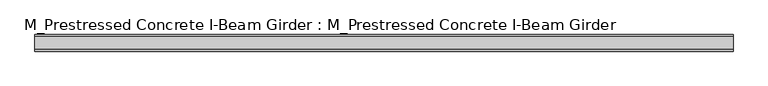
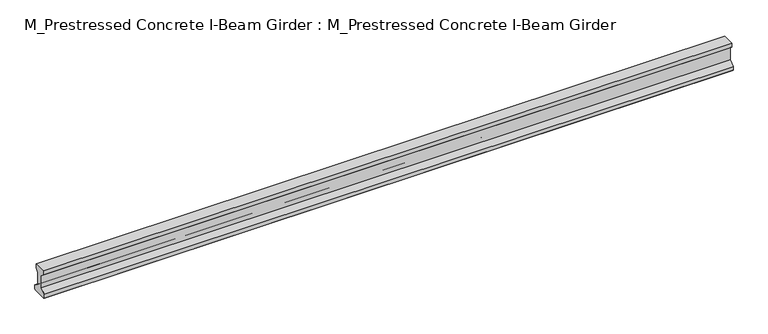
"""IFC4 building model written with IfcOpenShell, lengths in millimetres: beam geometry, M_Prestressed Concrete I-Beam Girder : M_Prestressed Concrete I-Beam Girder."""

from ifc_helpers import new_model, si_unit, frame, origin, place, context, project, spatial, polyline, outline, extrude, source, transform, mapped, element, save


def m_prestressed_concrete_i_beam_girder_m_prestressed_concrete_408f9f43(model_context):
    return source(origin(), model_context, "Body", "SweptSolid", [
        extrude(outline(polyline([(-150.0, -100.0), (-150.0, 0.0), (150.0, 0.0), (150.0, -100.0), (75.0, -170.0), (75.0, -480.0), (200.0, -580.0), (200.0, -675.0), (175.0, -700.0), (-175.0, -700.0), (-200.0, -675.0), (-200.0, -580.0), (-75.0, -480.0), (-75.0, -170.0), (-150.0, -100.0)])), frame((-8402.0000414, 0.0, 0.0), z_axis=(1.0, 0.0, 0.0), x_axis=(0.0, 1.0, 0.0)), (0.0, 0.0, 1.0), 16804.0000829),
    ])


if __name__ == "__main__":
    model = new_model("IFC4")
    model_context = context("Model", 3, world=origin())
    ifc_project = project(units=[si_unit("LENGTHUNIT", "METRE", prefix="MILLI")], contexts=[model_context])
    site = spatial("IfcSite", under=ifc_project)
    building = spatial("IfcBuilding", under=site)
    placement = place(None, origin())
    m_prestressed_concrete_i_beam_girder_m_prestressed_concrete_shape = m_prestressed_concrete_i_beam_girder_m_prestressed_concrete_408f9f43(model_context)
    element("IfcBeam", 1, ObjectType="M_Prestressed Concrete I-Beam Girder : M_Prestressed Concrete I-Beam Girder", at=placement, inside=building, context=model_context, shape_type="MappedRepresentation", body=[
        mapped(m_prestressed_concrete_i_beam_girder_m_prestressed_concrete_shape, transform((0.0, 0.0, 0.0), x_axis=(1.0, 0.0, 0.0), y_axis=(0.0, 1.0, 0.0), z_axis=(0.0, 0.0, 1.0))),
    ])
    save(model, "model.ifc")
